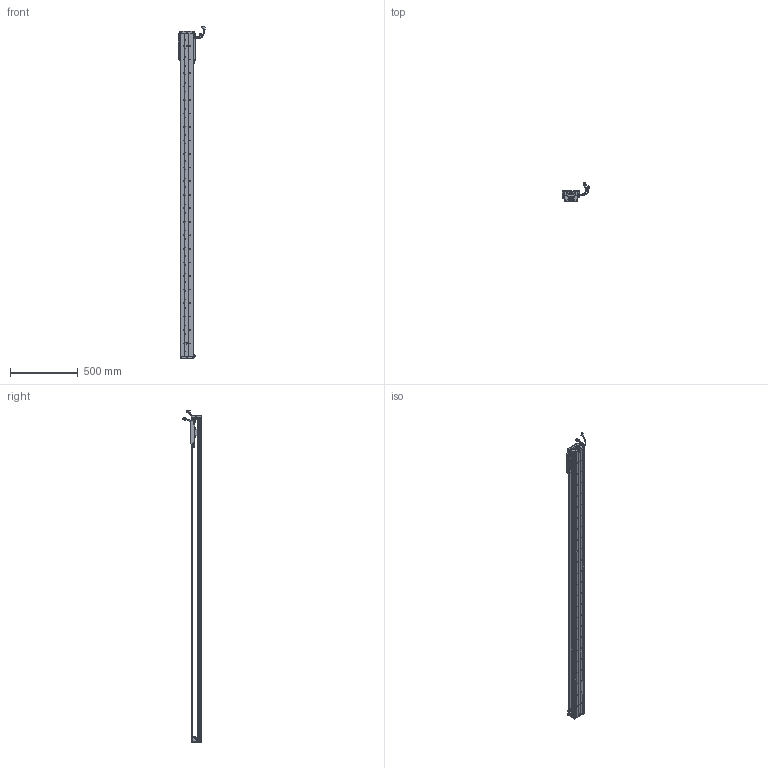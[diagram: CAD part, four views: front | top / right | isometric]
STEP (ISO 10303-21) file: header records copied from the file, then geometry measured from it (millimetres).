
FILE_DESCRIPTION (( 'STEP AP203' ), '1' );
FILE_NAME ('Z2-RY100D-1-L500-B-K.SLDASM_2150.step', '2021-05-17T02:37:25', ( '盈信电脑' ), ( '东莞市道滘镇水果街19号' ), 'SwSTEP 2.0', 'SolidWorks 2016', '' );
FILE_SCHEMA (( 'CONFIG_CONTROL_DESIGN' ));
Length unit declared in the file: millimetre
Products named in the file (36): SCALE; SEAL; SCREW-M1.7; Z2-RY100D-1-L500-B-K.SLDASM_2150; 140雄赽晤鎢ん堤盄; Z2-RY100D-500-倰第菁釱_2150; 140蚥薯蝶輸; COVER-Part-1; SCREW-M1.6-1; SCALE-Part-1; Z-100詩湍傷裔啣; SCREW-M1.6; Z-RY100D詩湍狟揤裔; SCREW-M1.6-2; SCALE-Part-2; HOLDER0; Z-RY100D詩湍奻揤裔; Z2-RY100铝滑块（21款）; 榋妏寠巭燃_暯_M2_2; HARNESS-Part-2; Z-RY100D覜茼んえ; Z2-RY100-L500詩湍90mm遵_2150; 100-Z-臏賑輸盄裔(21遴); COVER; HARNESS-Part-1; 覜茼ん672; SEAL-Part-1; LABEL; SCREW-M1.7-1; HARNESS; PBU_SHEET; LABEL-Part-1; 080黍杅芛假蚾釱21遴; SCREW-M1.6-3; PSLH080_PSLF2; SHIELDPLATE
Assembly tree (43 placements, depth 4):
  Z2-RY100D-1-L500-B-K.SLDASM_2150
    Z2-RY100D-500-倰第菁釱_2150
    Z2-RY100铝滑块（21款）
    PSLH080_PSLF2
      SCALE
        SCALE-Part-1
        SCALE-Part-2
      HARNESS
        HARNESS-Part-1
        HARNESS-Part-2
      LABEL
        LABEL-Part-1
      COVER
        COVER-Part-1
      SEAL
        SEAL-Part-1
      榋妏寠巭燃_暯_M2_2
      SHIELDPLATE
      SCREW-M1.7
      SCREW-M1.7-1
      PBU_SHEET
      SCREW-M1.6
      SCREW-M1.6-1
      SCREW-M1.6-2
      SCREW-M1.6-3
      HOLDER0
    080黍杅芛假蚾釱21遴
    Z-100詩湍傷裔啣  x2
    140蚥薯蝶輸  x2
    覜茼ん672  x3
    Z-RY100D覜茼んえ  x3
    100-Z-臏賑輸盄裔(21遴)
    140雄赽晤鎢ん堤盄
    Z2-RY100-L500詩湍90mm遵_2150
    Z-RY100D詩湍狟揤裔  x2
    Z-RY100D詩湍奻揤裔  x2
Bounding box: 205.84 x 136.11 x 2455.43 mm (x, y, z)
Volume: 4451154.8 mm3; surface area: 1763187.2 mm2
Topology: 38 solids, 38 shells, 2912 faces, 7911 edges, 5048 vertices
Faces by surface type: cylinder 1402, plane 1170, cone 218, torus 69, bspline 53
Entity records: 83579 total; most frequent: CARTESIAN_POINT 17548, DIRECTION 13423, ORIENTED_EDGE 12718, EDGE_CURVE 6359, AXIS2_PLACEMENT_3D 5027, VERTEX_POINT 4116, VECTOR 3369, LINE 3369
